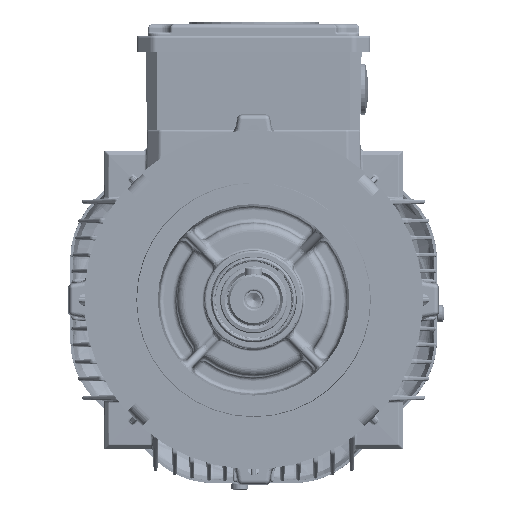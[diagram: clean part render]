
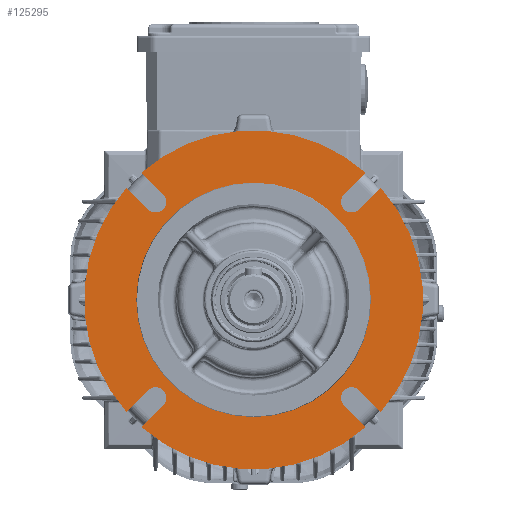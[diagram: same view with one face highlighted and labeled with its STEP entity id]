
A CAD part, left-side view. The second image highlights one B-rep face of the part: STEP entity #125295.
In plain terms, the highlighted planar face has unit normal (-1, 0, 0).
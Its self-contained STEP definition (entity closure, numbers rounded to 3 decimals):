
#16635=LINE('',#326025,#23716);
#16636=LINE('',#326026,#23717);
#16637=LINE('',#326030,#23718);
#16638=LINE('',#326031,#23719);
#16639=LINE('',#326035,#23720);
#16640=LINE('',#326036,#23721);
#16641=LINE('',#326040,#23722);
#16642=LINE('',#326041,#23723);
#23716=VECTOR('',#195272,1.);
#23717=VECTOR('',#195273,1.);
#23718=VECTOR('',#195276,1.);
#23719=VECTOR('',#195277,1.);
#23720=VECTOR('',#195280,1.);
#23721=VECTOR('',#195281,1.);
#23722=VECTOR('',#195284,1.);
#23723=VECTOR('',#195285,1.);
#38934=PLANE('',#161768);
#47883=EDGE_LOOP('',(#85084));
#47884=EDGE_LOOP('',(#85085,#85086,#85087,#85088,#85089,#85090,#85091,#85092,
#85093,#85094,#85095,#85096,#85097,#85098,#85099,#85100));
#85084=ORIENTED_EDGE('',*,*,#110167,.T.);
#85085=ORIENTED_EDGE('',*,*,#110168,.T.);
#85086=ORIENTED_EDGE('',*,*,#110169,.T.);
#85087=ORIENTED_EDGE('',*,*,#110150,.T.);
#85088=ORIENTED_EDGE('',*,*,#110170,.T.);
#85089=ORIENTED_EDGE('',*,*,#110171,.T.);
#85090=ORIENTED_EDGE('',*,*,#110172,.T.);
#85091=ORIENTED_EDGE('',*,*,#110163,.T.);
#85092=ORIENTED_EDGE('',*,*,#110173,.T.);
#85093=ORIENTED_EDGE('',*,*,#110174,.T.);
#85094=ORIENTED_EDGE('',*,*,#110175,.T.);
#85095=ORIENTED_EDGE('',*,*,#110157,.T.);
#85096=ORIENTED_EDGE('',*,*,#110176,.T.);
#85097=ORIENTED_EDGE('',*,*,#110177,.T.);
#85098=ORIENTED_EDGE('',*,*,#110178,.T.);
#85099=ORIENTED_EDGE('',*,*,#110148,.T.);
#85100=ORIENTED_EDGE('',*,*,#110179,.T.);
#110148=EDGE_CURVE('',#139073,#139072,#147126,.T.);
#110150=EDGE_CURVE('',#139074,#139075,#147127,.T.);
#110157=EDGE_CURVE('',#139079,#139078,#147129,.T.);
#110163=EDGE_CURVE('',#139083,#139082,#147131,.T.);
#110167=EDGE_CURVE('',#139086,#139086,#147134,.T.);
#110168=EDGE_CURVE('',#139087,#139088,#147135,.T.);
#110169=EDGE_CURVE('',#139088,#139074,#16635,.T.);
#110170=EDGE_CURVE('',#139075,#139089,#16636,.T.);
#110171=EDGE_CURVE('',#139089,#139090,#147136,.T.);
#110172=EDGE_CURVE('',#139090,#139083,#16637,.T.);
#110173=EDGE_CURVE('',#139082,#139091,#16638,.T.);
#110174=EDGE_CURVE('',#139091,#139092,#147137,.T.);
#110175=EDGE_CURVE('',#139092,#139079,#16639,.T.);
#110176=EDGE_CURVE('',#139078,#139093,#16640,.T.);
#110177=EDGE_CURVE('',#139093,#139094,#147138,.T.);
#110178=EDGE_CURVE('',#139094,#139073,#16641,.T.);
#110179=EDGE_CURVE('',#139072,#139087,#16642,.T.);
#125295=ADVANCED_FACE('',(#128214,#128215),#38934,.T.);
#128214=FACE_BOUND('',#47883,.T.);
#128215=FACE_BOUND('',#47884,.T.);
#139072=VERTEX_POINT('',#325944);
#139073=VERTEX_POINT('',#325946);
#139074=VERTEX_POINT('',#325950);
#139075=VERTEX_POINT('',#325951);
#139078=VERTEX_POINT('',#325980);
#139079=VERTEX_POINT('',#325982);
#139082=VERTEX_POINT('',#326010);
#139083=VERTEX_POINT('',#326012);
#139086=VERTEX_POINT('',#326021);
#139087=VERTEX_POINT('',#326023);
#139088=VERTEX_POINT('',#326024);
#139089=VERTEX_POINT('',#326027);
#139090=VERTEX_POINT('',#326029);
#139091=VERTEX_POINT('',#326032);
#139092=VERTEX_POINT('',#326034);
#139093=VERTEX_POINT('',#326037);
#139094=VERTEX_POINT('',#326039);
#147126=CIRCLE('',#161748,79.5);
#147127=CIRCLE('',#161750,79.5);
#147129=CIRCLE('',#161754,79.5);
#147131=CIRCLE('',#161758,79.5);
#147134=CIRCLE('',#161763,55.);
#147135=CIRCLE('',#161764,5.);
#147136=CIRCLE('',#161765,5.);
#147137=CIRCLE('',#161766,5.);
#147138=CIRCLE('',#161767,5.);
#161748=AXIS2_PLACEMENT_3D('',#325945,#195231,#195232);
#161750=AXIS2_PLACEMENT_3D('',#325949,#195236,#195237);
#161754=AXIS2_PLACEMENT_3D('',#325981,#195247,#195248);
#161758=AXIS2_PLACEMENT_3D('',#326011,#195257,#195258);
#161763=AXIS2_PLACEMENT_3D('',#326020,#195268,#195269);
#161764=AXIS2_PLACEMENT_3D('',#326022,#195270,#195271);
#161765=AXIS2_PLACEMENT_3D('',#326028,#195274,#195275);
#161766=AXIS2_PLACEMENT_3D('',#326033,#195278,#195279);
#161767=AXIS2_PLACEMENT_3D('',#326038,#195282,#195283);
#161768=AXIS2_PLACEMENT_3D('',#326042,#195286,#195287);
#195231=DIRECTION('',(-1.,0.,0.));
#195232=DIRECTION('',(0.,0.,-1.));
#195236=DIRECTION('',(-1.,0.,0.));
#195237=DIRECTION('',(0.,0.,-1.));
#195247=DIRECTION('',(-1.,0.,0.));
#195248=DIRECTION('',(0.,0.,-1.));
#195257=DIRECTION('',(-1.,0.,0.));
#195258=DIRECTION('',(0.,0.,-1.));
#195268=DIRECTION('',(1.,0.,0.));
#195269=DIRECTION('',(0.,0.,-1.));
#195270=DIRECTION('',(1.,0.,0.));
#195271=DIRECTION('',(0.,1.,0.));
#195272=DIRECTION('',(0.,0.707,-0.707));
#195273=DIRECTION('',(0.,0.707,0.707));
#195274=DIRECTION('',(1.,0.,0.));
#195275=DIRECTION('',(0.,0.,-1.));
#195276=DIRECTION('',(0.,-0.707,-0.707));
#195277=DIRECTION('',(0.,0.707,-0.707));
#195278=DIRECTION('',(1.,0.,0.));
#195279=DIRECTION('',(0.,-1.,0.));
#195280=DIRECTION('',(0.,-0.707,0.707));
#195281=DIRECTION('',(0.,-0.707,-0.707));
#195282=DIRECTION('',(1.,0.,0.));
#195283=DIRECTION('',(0.,0.,1.));
#195284=DIRECTION('',(0.,0.707,0.707));
#195285=DIRECTION('',(0.,-0.707,0.707));
#195286=DIRECTION('',(-1.,0.,0.));
#195287=DIRECTION('',(0.,0.,1.));
#325944=CARTESIAN_POINT('',(-51.499,77.909,29.842));
#325945=CARTESIAN_POINT('',(-51.499,18.27,82.411));
#325946=CARTESIAN_POINT('',(-51.499,77.909,134.979));
#325949=CARTESIAN_POINT('',(-51.499,18.27,82.411));
#325950=CARTESIAN_POINT('',(-51.499,70.838,22.771));
#325951=CARTESIAN_POINT('',(-51.499,-34.298,22.771));
#325980=CARTESIAN_POINT('',(-51.499,70.838,142.05));
#325981=CARTESIAN_POINT('',(-51.499,18.27,82.411));
#325982=CARTESIAN_POINT('',(-51.499,-34.298,142.05));
#326010=CARTESIAN_POINT('',(-51.499,-41.369,134.979));
#326011=CARTESIAN_POINT('',(-51.499,18.27,82.411));
#326012=CARTESIAN_POINT('',(-51.499,-41.369,29.842));
#326020=CARTESIAN_POINT('',(-51.499,18.27,82.411));
#326021=CARTESIAN_POINT('',(-51.499,18.27,27.411));
#326022=CARTESIAN_POINT('',(-51.499,64.232,36.449));
#326023=CARTESIAN_POINT('',(-51.499,67.767,39.984));
#326024=CARTESIAN_POINT('',(-51.499,60.696,32.913));
#326025=CARTESIAN_POINT('',(-51.499,60.696,32.913));
#326026=CARTESIAN_POINT('',(-51.499,-45.37,11.7));
#326027=CARTESIAN_POINT('',(-51.499,-24.156,32.913));
#326028=CARTESIAN_POINT('',(-51.499,-27.692,36.449));
#326029=CARTESIAN_POINT('',(-51.499,-31.228,39.984));
#326030=CARTESIAN_POINT('',(-51.499,-31.228,39.984));
#326031=CARTESIAN_POINT('',(-51.499,-52.441,146.05));
#326032=CARTESIAN_POINT('',(-51.499,-31.228,124.837));
#326033=CARTESIAN_POINT('',(-51.499,-27.692,128.372));
#326034=CARTESIAN_POINT('',(-51.499,-24.157,131.908));
#326035=CARTESIAN_POINT('',(-51.499,-24.157,131.908));
#326036=CARTESIAN_POINT('',(-51.499,81.909,153.121));
#326037=CARTESIAN_POINT('',(-51.499,60.696,131.908));
#326038=CARTESIAN_POINT('',(-51.499,64.232,128.373));
#326039=CARTESIAN_POINT('',(-51.499,67.767,124.837));
#326040=CARTESIAN_POINT('',(-51.499,67.767,124.837));
#326041=CARTESIAN_POINT('',(-51.499,88.981,18.771));
#326042=CARTESIAN_POINT('',(-51.499,18.27,82.411));
